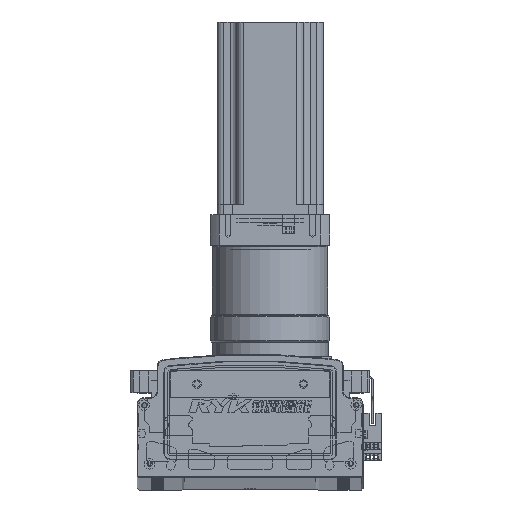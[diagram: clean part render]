
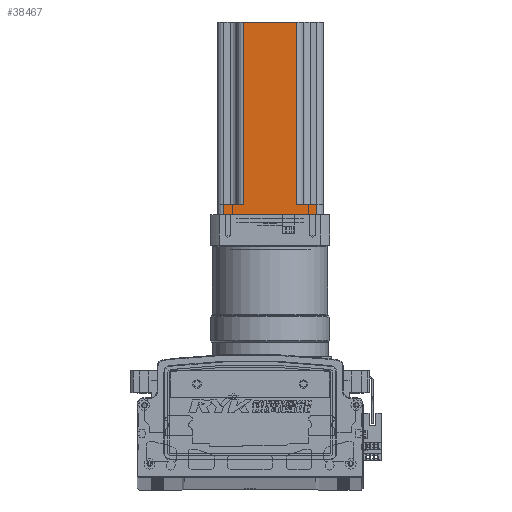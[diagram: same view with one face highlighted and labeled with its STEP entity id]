
A CAD part, top view. The second image highlights one B-rep face of the part: STEP entity #38467.
In plain terms, the highlighted planar face has unit normal (0, 0, 1) as drawn and (0, -1, 0) by its records, which use the part's own axes.
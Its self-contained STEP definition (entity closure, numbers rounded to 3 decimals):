
#5666 = AXIS2_PLACEMENT_3D ( 'NONE', #63758, #63720, #63760 ) ;
#13862 = CARTESIAN_POINT ( 'NONE',  ( -82.587, -40.37, 0. ) ) ;
#13960 = CARTESIAN_POINT ( 'NONE',  ( -12.587, -40.37, 8. ) ) ;
#13978 = CARTESIAN_POINT ( 'NONE',  ( -67.587, -40.37, 145. ) ) ;
#14099 = CARTESIAN_POINT ( 'NONE',  ( -12.587, -40.37, 0. ) ) ;
#14137 = CARTESIAN_POINT ( 'NONE',  ( -67.587, -40.37, 8. ) ) ;
#14175 = CARTESIAN_POINT ( 'NONE',  ( -27.587, -40.37, 8. ) ) ;
#14262 = CARTESIAN_POINT ( 'NONE',  ( -27.587, -40.37, 145. ) ) ;
#14281 = CARTESIAN_POINT ( 'NONE',  ( -82.587, -40.37, 8. ) ) ;
#38467 = ADVANCED_FACE ( 'NONE', ( #88536 ), #63757, .F. ) ;
#41460 = EDGE_LOOP ( 'NONE', ( #51848, #51824, #51852, #51792, #51818, #51776, #51826, #51758 ) ) ;
#47567 = CARTESIAN_POINT ( 'NONE',  ( -87.587, -40.37, 0. ) ) ;
#47568 = DIRECTION ( 'NONE',  ( 1., 0., 0. ) ) ;
#47630 = CARTESIAN_POINT ( 'NONE',  ( -82.587, -40.37, 145. ) ) ;
#47680 = DIRECTION ( 'NONE',  ( 0., 0., 1. ) ) ;
#47682 = DIRECTION ( 'NONE',  ( 0., 0., -1. ) ) ;
#47719 = CARTESIAN_POINT ( 'NONE',  ( -12.587, -40.37, 145. ) ) ;
#47734 = DIRECTION ( 'NONE',  ( 1., 0., 0. ) ) ;
#47743 = CARTESIAN_POINT ( 'NONE',  ( -7.587, -40.37, 8. ) ) ;
#47764 = CARTESIAN_POINT ( 'NONE',  ( -87.587, -40.37, 8. ) ) ;
#47774 = DIRECTION ( 'NONE',  ( 1., 0., 0. ) ) ;
#48005 = DIRECTION ( 'NONE',  ( 0., 0., -1. ) ) ;
#48021 = CARTESIAN_POINT ( 'NONE',  ( -67.587, -40.37, 145. ) ) ;
#48212 = CARTESIAN_POINT ( 'NONE',  ( -27.587, -40.37, 145. ) ) ;
#48221 = DIRECTION ( 'NONE',  ( 0., 0., 1. ) ) ;
#48316 = CARTESIAN_POINT ( 'NONE',  ( -87.587, -40.37, 145. ) ) ;
#48361 = DIRECTION ( 'NONE',  ( 1., 0., 0. ) ) ;
#51758 = ORIENTED_EDGE ( 'NONE', *, *, #68836, .T. ) ;
#51776 = ORIENTED_EDGE ( 'NONE', *, *, #68920, .T. ) ;
#51792 = ORIENTED_EDGE ( 'NONE', *, *, #68714, .T. ) ;
#51818 = ORIENTED_EDGE ( 'NONE', *, *, #68746, .F. ) ;
#51824 = ORIENTED_EDGE ( 'NONE', *, *, #68686, .T. ) ;
#51826 = ORIENTED_EDGE ( 'NONE', *, *, #68941, .F. ) ;
#51848 = ORIENTED_EDGE ( 'NONE', *, *, #68733, .F. ) ;
#51852 = ORIENTED_EDGE ( 'NONE', *, *, #68654, .T. ) ;
#63720 = DIRECTION ( 'NONE',  ( 0., 1., 0. ) ) ;
#63757 = PLANE ( 'NONE',  #5666 ) ;
#63758 = CARTESIAN_POINT ( 'NONE',  ( -87.587, -40.37, 145. ) ) ;
#63760 = DIRECTION ( 'NONE',  ( -1., 0., 0. ) ) ;
#68654 = EDGE_CURVE ( 'NONE', #128905, #128939, #99086, .T. ) ;
#68686 = EDGE_CURVE ( 'NONE', #129001, #128905, #99066, .T. ) ;
#68714 = EDGE_CURVE ( 'NONE', #128939, #128925, #99278, .T. ) ;
#68733 = EDGE_CURVE ( 'NONE', #129001, #128997, #99230, .T. ) ;
#68746 = EDGE_CURVE ( 'NONE', #129000, #128925, #99198, .T. ) ;
#68836 = EDGE_CURVE ( 'NONE', #128966, #128997, #99346, .T. ) ;
#68920 = EDGE_CURVE ( 'NONE', #129000, #128987, #99484, .T. ) ;
#68941 = EDGE_CURVE ( 'NONE', #128966, #128987, #99502, .T. ) ;
#88536 = FACE_OUTER_BOUND ( 'NONE', #41460, .T. ) ;
#99066 = LINE ( 'NONE', #47630, #99082 ) ;
#99082 = VECTOR ( 'NONE', #47682, 1000. ) ;
#99086 = LINE ( 'NONE', #47567, #99104 ) ;
#99104 = VECTOR ( 'NONE', #47568, 1000. ) ;
#99186 = VECTOR ( 'NONE', #47680, 1000. ) ;
#99198 = LINE ( 'NONE', #47743, #99200 ) ;
#99200 = VECTOR ( 'NONE', #47774, 1000. ) ;
#99216 = VECTOR ( 'NONE', #47734, 1000. ) ;
#99230 = LINE ( 'NONE', #47764, #99216 ) ;
#99278 = LINE ( 'NONE', #47719, #99186 ) ;
#99302 = VECTOR ( 'NONE', #48005, 1000. ) ;
#99346 = LINE ( 'NONE', #48021, #99302 ) ;
#99484 = LINE ( 'NONE', #48212, #99486 ) ;
#99486 = VECTOR ( 'NONE', #48221, 1000. ) ;
#99502 = LINE ( 'NONE', #48316, #99518 ) ;
#99518 = VECTOR ( 'NONE', #48361, 1000. ) ;
#128905 = VERTEX_POINT ( 'NONE', #13862 ) ;
#128925 = VERTEX_POINT ( 'NONE', #13960 ) ;
#128939 = VERTEX_POINT ( 'NONE', #14099 ) ;
#128966 = VERTEX_POINT ( 'NONE', #13978 ) ;
#128987 = VERTEX_POINT ( 'NONE', #14262 ) ;
#128997 = VERTEX_POINT ( 'NONE', #14137 ) ;
#129000 = VERTEX_POINT ( 'NONE', #14175 ) ;
#129001 = VERTEX_POINT ( 'NONE', #14281 ) ;
